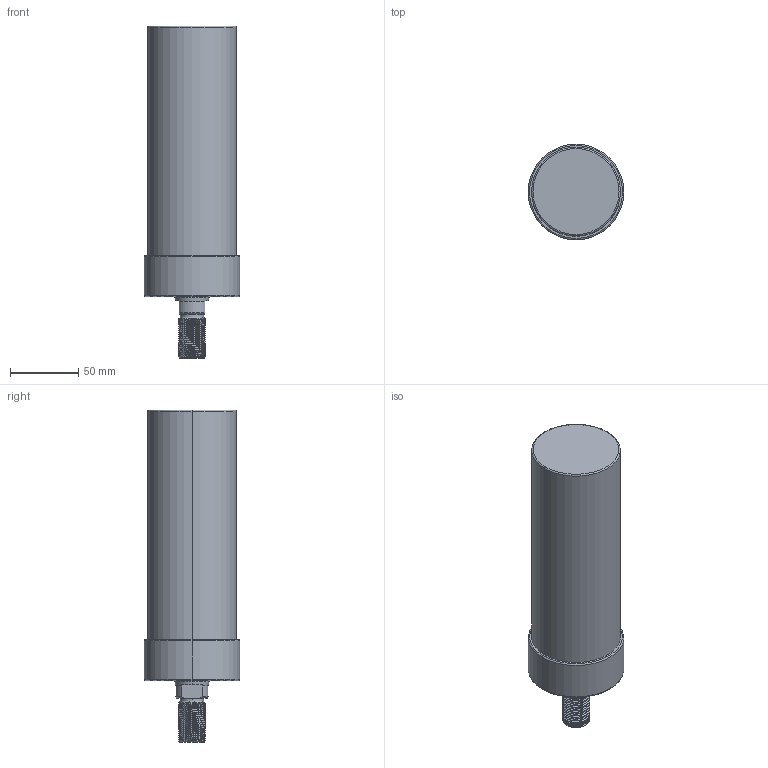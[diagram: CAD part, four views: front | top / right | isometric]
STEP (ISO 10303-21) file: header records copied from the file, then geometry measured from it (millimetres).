
FILE_DESCRIPTION (( 'STEP AP203' ), '1' );
FILE_NAME ('CLLU-065GT-135.STEP', '2020-01-16T02:19:29', ( '' ), ( '' ), 'SwSTEP 2.0', 'SolidWorks 2015', '' );
FILE_SCHEMA (( 'CONFIG_CONTROL_DESIGN' ));
Length unit declared in the file: millimetre
Products named in the file (1): CLLU-065GT-135
Bounding box: 70 x 70 x 243 mm (x, y, z)
Volume: 685731.4 mm3; surface area: 53707.2 mm2
Topology: 1 solids, 1 shells, 105 faces, 267 edges, 165 vertices
Faces by surface type: cylinder 60, cone 26, plane 11, torus 6, bspline 2
Entity records: 5352 total; most frequent: CARTESIAN_POINT 2994, ORIENTED_EDGE 518, DIRECTION 448, EDGE_CURVE 259, AXIS2_PLACEMENT_3D 180, VERTEX_POINT 165, EDGE_LOOP 114, FACE_OUTER_BOUND 105
